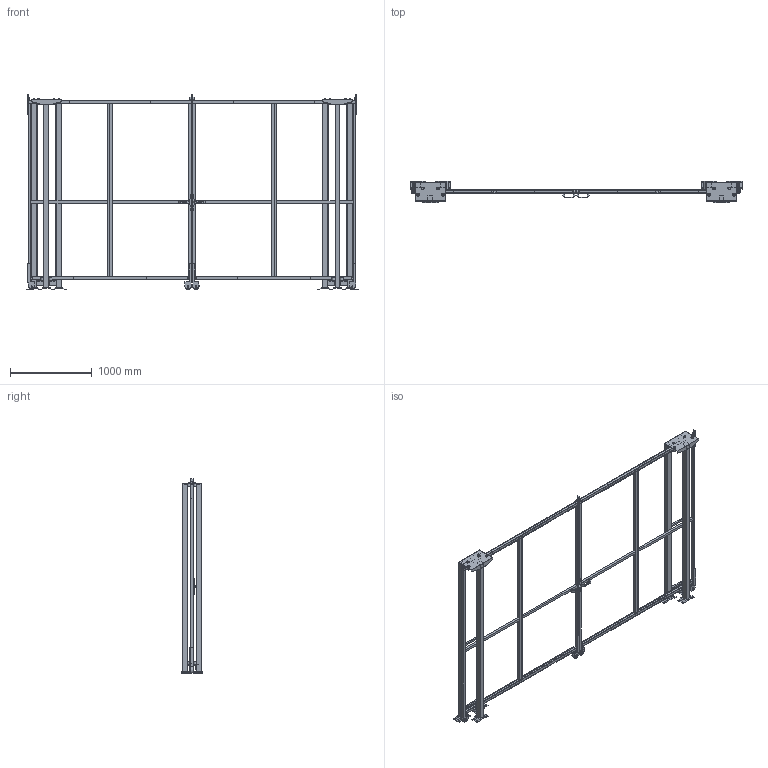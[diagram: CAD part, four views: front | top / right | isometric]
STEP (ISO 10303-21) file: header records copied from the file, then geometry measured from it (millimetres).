
FILE_DESCRIPTION(/* description */ (''),/* implementation_level */ '2;1');
FILE_NAME(/* name */ 'C:\SafeGuarding\ELABORATI\KLADKA2KR_2025-03-25-10-30-34.stp',/* time_stamp */ '2025-03-25T10:30:37+01:00',/* author */ ('admin'),/* organization */ (''),/* preprocessor_version */ 'ST-DEVELOPER v18.1',/* originating_system */ 'AutoCAD Mechanical',/* authorisation */ '');
FILE_SCHEMA (('AUTOMOTIVE_DESIGN { 1 0 10303 214 3 1 1 }'));
Length unit declared in the file: millimetre
Products named in the file (5): Product; R_VFPA.REPE30.10002200; P_VFMA.V360SDU.2320; R_VFPA.REPE20.02502200; P_VFMA.V260SDU.2320
Assembly tree (12 placements, depth 2):
  Product
    R_VFPA.REPE30.10002200  x4
    P_VFMA.V360SDU.2320  x2
    P_VFMA.V260SDU.2320  x4
    R_VFPA.REPE20.02502200  x2
Bounding box: 4071.36 x 264 x 2390.02 mm (x, y, z)
Volume: 86468353.5 mm3; surface area: 12116047.5 mm2
Topology: 108 solids, 130 shells, 946 faces, 2955 edges, 3033 vertices
Faces by surface type: plane 870, cylinder 76
Full cylindrical faces by diameter (mm): 9 x8, 11 x24, 13 x8, 14 x4, 30 x12, 36 x16, 80 x4
Entity records: 23767 total; most frequent: CARTESIAN_POINT 4986, DIRECTION 3643, ORIENTED_EDGE 3404, EDGE_CURVE 1800, LINE 1647, VECTOR 1647, VERTEX_POINT 1280, AXIS2_PLACEMENT_3D 998
